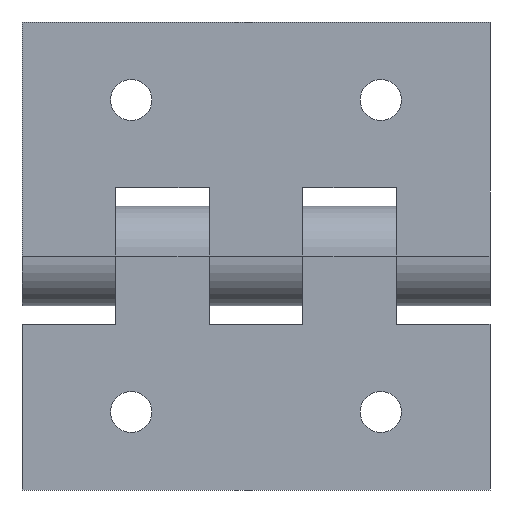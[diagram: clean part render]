
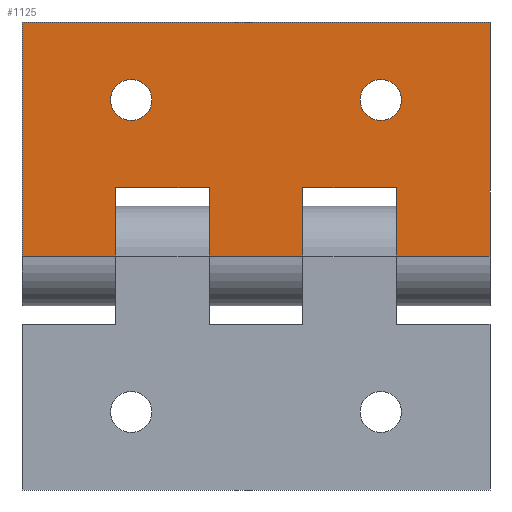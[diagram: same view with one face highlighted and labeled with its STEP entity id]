
A CAD part, front view. The second image highlights one B-rep face of the part: STEP entity #1125.
In plain terms, the highlighted planar face has unit normal (0, -1, 0).
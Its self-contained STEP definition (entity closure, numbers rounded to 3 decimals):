
#1 = CARTESIAN_POINT ( 'NONE',  ( 22.5, 0., -10.954 ) ) ;
#38 = CARTESIAN_POINT ( 'NONE',  ( 37.5, 0., 0. ) ) ;
#63 = DIRECTION ( 'NONE',  ( -1., 0., 0. ) ) ;
#88 = CARTESIAN_POINT ( 'NONE',  ( 37.5, 0., -37.5 ) ) ;
#110 = EDGE_CURVE ( 'NONE', #287, #215, #1241, .T. ) ;
#155 = LINE ( 'NONE', #1523, #1716 ) ;
#185 = CIRCLE ( 'NONE', #885, 3.3 ) ;
#194 = DIRECTION ( 'NONE',  ( 0., 0., 1. ) ) ;
#206 = CARTESIAN_POINT ( 'NONE',  ( -7.5, 0., 0. ) ) ;
#207 = CARTESIAN_POINT ( 'NONE',  ( 37.5, 0., 0. ) ) ;
#215 = VERTEX_POINT ( 'NONE', #88 ) ;
#230 = CARTESIAN_POINT ( 'NONE',  ( -37.5, 0., -37.5 ) ) ;
#232 = EDGE_CURVE ( 'NONE', #1152, #457, #519, .T. ) ;
#236 = EDGE_CURVE ( 'NONE', #1729, #2279, #1859, .T. ) ;
#243 = EDGE_CURVE ( 'NONE', #287, #1831, #1635, .T. ) ;
#250 = FACE_OUTER_BOUND ( 'NONE', #986, .T. ) ;
#285 = VERTEX_POINT ( 'NONE', #1476 ) ;
#287 = VERTEX_POINT ( 'NONE', #332 ) ;
#317 = CARTESIAN_POINT ( 'NONE',  ( -20., 0., -25. ) ) ;
#332 = CARTESIAN_POINT ( 'NONE',  ( 37.5, 0., 0. ) ) ;
#342 = DIRECTION ( 'NONE',  ( 0., 1., 0. ) ) ;
#353 = VERTEX_POINT ( 'NONE', #1 ) ;
#413 = CIRCLE ( 'NONE', #1592, 3.3 ) ;
#447 = FACE_BOUND ( 'NONE', #1370, .T. ) ;
#457 = VERTEX_POINT ( 'NONE', #230 ) ;
#465 = CARTESIAN_POINT ( 'NONE',  ( 22.5, 0., 0. ) ) ;
#468 = EDGE_CURVE ( 'NONE', #549, #1152, #589, .T. ) ;
#469 = VECTOR ( 'NONE', #1488, 1000. ) ;
#472 = PLANE ( 'NONE',  #1330 ) ;
#496 = VECTOR ( 'NONE', #651, 1000. ) ;
#519 = LINE ( 'NONE', #709, #469 ) ;
#549 = VERTEX_POINT ( 'NONE', #2420 ) ;
#589 = LINE ( 'NONE', #207, #1249 ) ;
#651 = DIRECTION ( 'NONE',  ( -1., 0., 0. ) ) ;
#659 = DIRECTION ( 'NONE',  ( 0., 1., 0. ) ) ;
#663 = VERTEX_POINT ( 'NONE', #1135 ) ;
#669 = VERTEX_POINT ( 'NONE', #2245 ) ;
#709 = CARTESIAN_POINT ( 'NONE',  ( -37.5, 0., 0. ) ) ;
#710 = VECTOR ( 'NONE', #2002, 1000. ) ;
#719 = VECTOR ( 'NONE', #861, 1000. ) ;
#732 = EDGE_CURVE ( 'NONE', #1831, #353, #2459, .T. ) ;
#741 = CARTESIAN_POINT ( 'NONE',  ( -22.5, 0., -10.954 ) ) ;
#743 = LINE ( 'NONE', #1078, #2157 ) ;
#751 = CARTESIAN_POINT ( 'NONE',  ( -7.5, 0., -10.954 ) ) ;
#752 = ORIENTED_EDGE ( 'NONE', *, *, #936, .T. ) ;
#767 = VERTEX_POINT ( 'NONE', #1092 ) ;
#773 = EDGE_CURVE ( 'NONE', #2388, #549, #1279, .T. ) ;
#782 = VERTEX_POINT ( 'NONE', #1682 ) ;
#813 = CARTESIAN_POINT ( 'NONE',  ( -20., 0., -25. ) ) ;
#849 = CARTESIAN_POINT ( 'NONE',  ( 37.5, 0., 0. ) ) ;
#861 = DIRECTION ( 'NONE',  ( -1., 0., 0. ) ) ;
#880 = VECTOR ( 'NONE', #881, 1000. ) ;
#881 = DIRECTION ( 'NONE',  ( -1., 0., 0. ) ) ;
#885 = AXIS2_PLACEMENT_3D ( 'NONE', #813, #1917, #1558 ) ;
#906 = DIRECTION ( 'NONE',  ( 0., 1., 0. ) ) ;
#911 = AXIS2_PLACEMENT_3D ( 'NONE', #2027, #906, #1510 ) ;
#936 = EDGE_CURVE ( 'NONE', #767, #669, #185, .T. ) ;
#986 = EDGE_LOOP ( 'NONE', ( #1390, #2505, #1143, #1876, #1912, #2062, #1846, #1049, #1183, #2430, #1713, #1646 ) ) ;
#1046 = EDGE_CURVE ( 'NONE', #1442, #2388, #1832, .T. ) ;
#1049 = ORIENTED_EDGE ( 'NONE', *, *, #1819, .F. ) ;
#1078 = CARTESIAN_POINT ( 'NONE',  ( 7.5, 0., -10.954 ) ) ;
#1092 = CARTESIAN_POINT ( 'NONE',  ( -20., 0., -21.7 ) ) ;
#1125 = ADVANCED_FACE ( 'NONE', ( #447, #1990, #250 ), #472, .F. ) ;
#1135 = CARTESIAN_POINT ( 'NONE',  ( 20., 0., -28.3 ) ) ;
#1143 = ORIENTED_EDGE ( 'NONE', *, *, #2064, .T. ) ;
#1152 = VERTEX_POINT ( 'NONE', #1288 ) ;
#1183 = ORIENTED_EDGE ( 'NONE', *, *, #110, .F. ) ;
#1184 = ORIENTED_EDGE ( 'NONE', *, *, #2031, .T. ) ;
#1241 = LINE ( 'NONE', #38, #710 ) ;
#1249 = VECTOR ( 'NONE', #1955, 1000. ) ;
#1273 = AXIS2_PLACEMENT_3D ( 'NONE', #317, #342, #1280 ) ;
#1279 = LINE ( 'NONE', #741, #2208 ) ;
#1280 = DIRECTION ( 'NONE',  ( 0., 0., 1. ) ) ;
#1288 = CARTESIAN_POINT ( 'NONE',  ( -37.5, 0., 0. ) ) ;
#1291 = DIRECTION ( 'NONE',  ( 0., 0., 1. ) ) ;
#1301 = DIRECTION ( 'NONE',  ( 0., 0., -1. ) ) ;
#1330 = AXIS2_PLACEMENT_3D ( 'NONE', #849, #659, #1444 ) ;
#1370 = EDGE_LOOP ( 'NONE', ( #752, #1705 ) ) ;
#1390 = ORIENTED_EDGE ( 'NONE', *, *, #1994, .T. ) ;
#1434 = CARTESIAN_POINT ( 'NONE',  ( 37.5, 0., -37.5 ) ) ;
#1442 = VERTEX_POINT ( 'NONE', #751 ) ;
#1444 = DIRECTION ( 'NONE',  ( 0., 0., 1. ) ) ;
#1476 = CARTESIAN_POINT ( 'NONE',  ( 7.5, 0., -10.954 ) ) ;
#1488 = DIRECTION ( 'NONE',  ( 0., 0., -1. ) ) ;
#1510 = DIRECTION ( 'NONE',  ( 0., 0., 1. ) ) ;
#1523 = CARTESIAN_POINT ( 'NONE',  ( -7.5, 0., -10.954 ) ) ;
#1554 = VECTOR ( 'NONE', #63, 1000. ) ;
#1558 = DIRECTION ( 'NONE',  ( 0., 0., 1. ) ) ;
#1592 = AXIS2_PLACEMENT_3D ( 'NONE', #2307, #2297, #194 ) ;
#1615 = CARTESIAN_POINT ( 'NONE',  ( -22.5, 0., -10.954 ) ) ;
#1635 = LINE ( 'NONE', #2452, #2489 ) ;
#1644 = DIRECTION ( 'NONE',  ( -1., 0., 0. ) ) ;
#1646 = ORIENTED_EDGE ( 'NONE', *, *, #1894, .T. ) ;
#1682 = CARTESIAN_POINT ( 'NONE',  ( 20., 0., -21.7 ) ) ;
#1705 = ORIENTED_EDGE ( 'NONE', *, *, #2074, .T. ) ;
#1713 = ORIENTED_EDGE ( 'NONE', *, *, #732, .T. ) ;
#1716 = VECTOR ( 'NONE', #2448, 1000. ) ;
#1729 = VERTEX_POINT ( 'NONE', #1935 ) ;
#1793 = LINE ( 'NONE', #2017, #1554 ) ;
#1819 = EDGE_CURVE ( 'NONE', #215, #457, #2198, .T. ) ;
#1831 = VERTEX_POINT ( 'NONE', #465 ) ;
#1832 = LINE ( 'NONE', #1615, #719 ) ;
#1846 = ORIENTED_EDGE ( 'NONE', *, *, #232, .T. ) ;
#1859 = LINE ( 'NONE', #2250, #880 ) ;
#1867 = DIRECTION ( 'NONE',  ( 0., 0., 1. ) ) ;
#1870 = CIRCLE ( 'NONE', #1273, 3.3 ) ;
#1876 = ORIENTED_EDGE ( 'NONE', *, *, #1046, .T. ) ;
#1894 = EDGE_CURVE ( 'NONE', #353, #285, #1793, .T. ) ;
#1912 = ORIENTED_EDGE ( 'NONE', *, *, #773, .T. ) ;
#1917 = DIRECTION ( 'NONE',  ( 0., 1., 0. ) ) ;
#1935 = CARTESIAN_POINT ( 'NONE',  ( 7.5, 0., 0. ) ) ;
#1938 = EDGE_LOOP ( 'NONE', ( #2426, #1184 ) ) ;
#1955 = DIRECTION ( 'NONE',  ( -1., 0., 0. ) ) ;
#1990 = FACE_BOUND ( 'NONE', #1938, .T. ) ;
#1994 = EDGE_CURVE ( 'NONE', #285, #1729, #743, .T. ) ;
#2002 = DIRECTION ( 'NONE',  ( 0., 0., -1. ) ) ;
#2017 = CARTESIAN_POINT ( 'NONE',  ( 7.5, 0., -10.954 ) ) ;
#2027 = CARTESIAN_POINT ( 'NONE',  ( 20., 0., -25. ) ) ;
#2031 = EDGE_CURVE ( 'NONE', #663, #782, #2354, .T. ) ;
#2062 = ORIENTED_EDGE ( 'NONE', *, *, #468, .T. ) ;
#2064 = EDGE_CURVE ( 'NONE', #2279, #1442, #155, .T. ) ;
#2074 = EDGE_CURVE ( 'NONE', #669, #767, #1870, .T. ) ;
#2093 = CARTESIAN_POINT ( 'NONE',  ( 22.5, 0., -10.954 ) ) ;
#2142 = EDGE_CURVE ( 'NONE', #782, #663, #413, .T. ) ;
#2157 = VECTOR ( 'NONE', #1867, 1000. ) ;
#2198 = LINE ( 'NONE', #1434, #496 ) ;
#2208 = VECTOR ( 'NONE', #1291, 1000. ) ;
#2245 = CARTESIAN_POINT ( 'NONE',  ( -20., 0., -28.3 ) ) ;
#2250 = CARTESIAN_POINT ( 'NONE',  ( 37.5, 0., 0. ) ) ;
#2279 = VERTEX_POINT ( 'NONE', #206 ) ;
#2297 = DIRECTION ( 'NONE',  ( 0., 1., 0. ) ) ;
#2307 = CARTESIAN_POINT ( 'NONE',  ( 20., 0., -25. ) ) ;
#2330 = VECTOR ( 'NONE', #1301, 1000. ) ;
#2354 = CIRCLE ( 'NONE', #911, 3.3 ) ;
#2372 = CARTESIAN_POINT ( 'NONE',  ( -22.5, 0., -10.954 ) ) ;
#2388 = VERTEX_POINT ( 'NONE', #2372 ) ;
#2420 = CARTESIAN_POINT ( 'NONE',  ( -22.5, 0., 0. ) ) ;
#2426 = ORIENTED_EDGE ( 'NONE', *, *, #2142, .T. ) ;
#2430 = ORIENTED_EDGE ( 'NONE', *, *, #243, .T. ) ;
#2448 = DIRECTION ( 'NONE',  ( 0., 0., -1. ) ) ;
#2452 = CARTESIAN_POINT ( 'NONE',  ( 37.5, 0., 0. ) ) ;
#2459 = LINE ( 'NONE', #2093, #2330 ) ;
#2489 = VECTOR ( 'NONE', #1644, 1000. ) ;
#2505 = ORIENTED_EDGE ( 'NONE', *, *, #236, .T. ) ;
